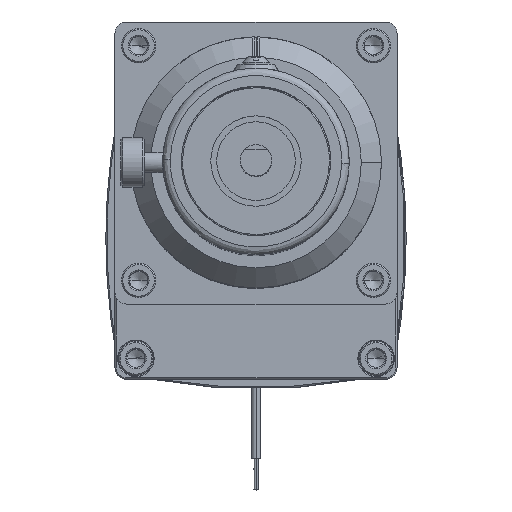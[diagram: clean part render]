
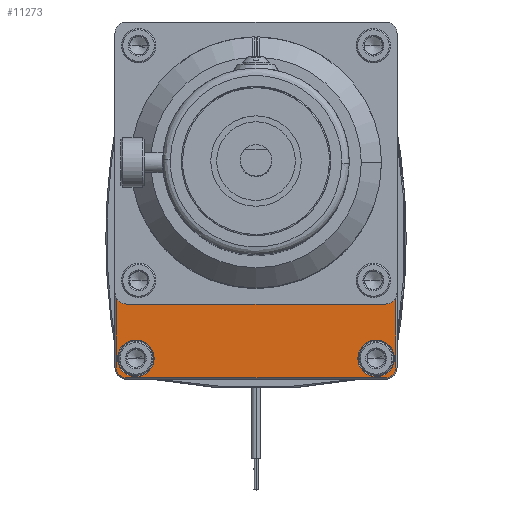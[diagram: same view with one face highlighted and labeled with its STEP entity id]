
A CAD part, top view. The second image highlights one B-rep face of the part: STEP entity #11273.
In plain terms, the highlighted planar face has unit normal (0, 0, 1).
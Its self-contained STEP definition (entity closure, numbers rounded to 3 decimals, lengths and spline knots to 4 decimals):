
#2308 = VERTEX_POINT ( 'NONE', #59616 ) ;
#2312 = VERTEX_POINT ( 'NONE', #59612 ) ;
#4531 = LINE ( 'NONE', #51686, #4542 ) ;
#4536 = LINE ( 'NONE', #51685, #4546 ) ;
#4542 = VECTOR ( 'NONE', #51691, 100. ) ;
#4546 = VECTOR ( 'NONE', #51692, 100. ) ;
#4568 = CIRCLE ( 'NONE', #57250, 0.3683 ) ;
#4575 = CIRCLE ( 'NONE', #57248, 0.3683 ) ;
#4579 = CIRCLE ( 'NONE', #57252, 0.2134 ) ;
#4581 = CIRCLE ( 'NONE', #57255, 0.2134 ) ;
#4585 = LINE ( 'NONE', #75797, #4592 ) ;
#4592 = VECTOR ( 'NONE', #75800, 100. ) ;
#9126 = EDGE_CURVE ( 'NONE', #21313, #21330, #4531, .T. ) ;
#9128 = EDGE_CURVE ( 'NONE', #21320, #21321, #4536, .T. ) ;
#9145 = EDGE_CURVE ( 'NONE', #28136, #28138, #4575, .T. ) ;
#9147 = EDGE_CURVE ( 'NONE', #28129, #28131, #4568, .T. ) ;
#9148 = EDGE_CURVE ( 'NONE', #21326, #21320, #4579, .T. ) ;
#9153 = EDGE_CURVE ( 'NONE', #21323, #21326, #4585, .T. ) ;
#9157 = EDGE_CURVE ( 'NONE', #21330, #21323, #4581, .T. ) ;
#11273 = ADVANCED_FACE ( 'NONE', ( #54540, #54552, #54542 ), #23118, .T. ) ;
#14322 = ORIENTED_EDGE ( 'NONE', *, *, #40113, .T. ) ;
#14325 = ORIENTED_EDGE ( 'NONE', *, *, #9145, .T. ) ;
#14328 = ORIENTED_EDGE ( 'NONE', *, *, #40108, .T. ) ;
#14332 = ORIENTED_EDGE ( 'NONE', *, *, #9147, .T. ) ;
#14335 = ORIENTED_EDGE ( 'NONE', *, *, #9128, .T. ) ;
#14338 = ORIENTED_EDGE ( 'NONE', *, *, #40504, .F. ) ;
#14342 = ORIENTED_EDGE ( 'NONE', *, *, #40503, .F. ) ;
#14345 = ORIENTED_EDGE ( 'NONE', *, *, #40502, .F. ) ;
#14348 = ORIENTED_EDGE ( 'NONE', *, *, #9126, .T. ) ;
#14352 = ORIENTED_EDGE ( 'NONE', *, *, #9157, .T. ) ;
#14355 = ORIENTED_EDGE ( 'NONE', *, *, #9153, .T. ) ;
#14357 = ORIENTED_EDGE ( 'NONE', *, *, #9148, .T. ) ;
#20525 = CARTESIAN_POINT ( 'NONE',  ( 2.413, -3.9218, -23.1699 ) ) ;
#20526 = DIRECTION ( 'NONE',  ( 0., 0., -1. ) ) ;
#20527 = DIRECTION ( 'NONE',  ( 1., 0., 0. ) ) ;
#20539 = CARTESIAN_POINT ( 'NONE',  ( -2.413, -3.9218, -23.1699 ) ) ;
#20540 = DIRECTION ( 'NONE',  ( 0., 0., -1. ) ) ;
#20541 = DIRECTION ( 'NONE',  ( 1., 0., 0. ) ) ;
#21313 = VERTEX_POINT ( 'NONE', #43923 ) ;
#21320 = VERTEX_POINT ( 'NONE', #43930 ) ;
#21321 = VERTEX_POINT ( 'NONE', #43931 ) ;
#21323 = VERTEX_POINT ( 'NONE', #43933 ) ;
#21326 = VERTEX_POINT ( 'NONE', #43936 ) ;
#21330 = VERTEX_POINT ( 'NONE', #43940 ) ;
#23109 = DIRECTION ( 'NONE',  ( 0., 0., 1. ) ) ;
#23113 = CARTESIAN_POINT ( 'NONE',  ( 0., -0.7544, -23.1699 ) ) ;
#23118 = PLANE ( 'NONE',  #53117 ) ;
#23122 = DIRECTION ( 'NONE',  ( 0., -1., 0. ) ) ;
#28129 = VERTEX_POINT ( 'NONE', #44715 ) ;
#28131 = VERTEX_POINT ( 'NONE', #44716 ) ;
#28136 = VERTEX_POINT ( 'NONE', #44720 ) ;
#28138 = VERTEX_POINT ( 'NONE', #44721 ) ;
#35844 = EDGE_LOOP ( 'NONE', ( #14328, #14332 ) ) ;
#35856 = EDGE_LOOP ( 'NONE', ( #14322, #14325 ) ) ;
#35861 = EDGE_LOOP ( 'NONE', ( #14335, #14338, #14342, #14345, #14348, #14352, #14355, #14357 ) ) ;
#40108 = EDGE_CURVE ( 'NONE', #28131, #28129, #48388, .T. ) ;
#40113 = EDGE_CURVE ( 'NONE', #28138, #28136, #48395, .T. ) ;
#40502 = EDGE_CURVE ( 'NONE', #21313, #2308, #48700, .T. ) ;
#40503 = EDGE_CURVE ( 'NONE', #2308, #2312, #48703, .T. ) ;
#40504 = EDGE_CURVE ( 'NONE', #2312, #21321, #48702, .T. ) ;
#43923 = CARTESIAN_POINT ( 'NONE',  ( -2.8067, -2.7011, -23.1699 ) ) ;
#43930 = CARTESIAN_POINT ( 'NONE',  ( 2.8067, -4.1021, -23.1699 ) ) ;
#43931 = CARTESIAN_POINT ( 'NONE',  ( 2.8067, -2.7011, -23.1699 ) ) ;
#43933 = CARTESIAN_POINT ( 'NONE',  ( -2.5933, -4.3155, -23.1699 ) ) ;
#43936 = CARTESIAN_POINT ( 'NONE',  ( 2.5933, -4.3155, -23.1699 ) ) ;
#43940 = CARTESIAN_POINT ( 'NONE',  ( -2.8067, -4.1021, -23.1699 ) ) ;
#44715 = CARTESIAN_POINT ( 'NONE',  ( 2.0447, -3.9218, -23.1699 ) ) ;
#44716 = CARTESIAN_POINT ( 'NONE',  ( 2.7813, -3.9218, -23.1699 ) ) ;
#44720 = CARTESIAN_POINT ( 'NONE',  ( -2.7813, -3.9218, -23.1699 ) ) ;
#44721 = CARTESIAN_POINT ( 'NONE',  ( -2.0447, -3.9218, -23.1699 ) ) ;
#48388 = CIRCLE ( 'NONE', #66026, 0.3683 ) ;
#48395 = CIRCLE ( 'NONE', #66032, 0.3683 ) ;
#48700 = CIRCLE ( 'NONE', #66274, 0.238 ) ;
#48702 = CIRCLE ( 'NONE', #66277, 0.238 ) ;
#48703 = LINE ( 'NONE', #80657, #48705 ) ;
#48705 = VECTOR ( 'NONE', #80658, 100. ) ;
#51685 = CARTESIAN_POINT ( 'NONE',  ( 2.8067, -0.7544, -23.1699 ) ) ;
#51686 = CARTESIAN_POINT ( 'NONE',  ( -2.8067, -0.7544, -23.1699 ) ) ;
#51691 = DIRECTION ( 'NONE',  ( 0., -1., 0. ) ) ;
#51692 = DIRECTION ( 'NONE',  ( 0., 1., 0. ) ) ;
#53117 = AXIS2_PLACEMENT_3D ( 'NONE', #23113, #23109, #23122 ) ;
#54540 = FACE_BOUND ( 'NONE', #35856, .T. ) ;
#54542 = FACE_OUTER_BOUND ( 'NONE', #35861, .T. ) ;
#54552 = FACE_BOUND ( 'NONE', #35844, .T. ) ;
#57248 = AXIS2_PLACEMENT_3D ( 'NONE', #75774, #75776, #75778 ) ;
#57250 = AXIS2_PLACEMENT_3D ( 'NONE', #75782, #75784, #75786 ) ;
#57252 = AXIS2_PLACEMENT_3D ( 'NONE', #75791, #75793, #75794 ) ;
#57255 = AXIS2_PLACEMENT_3D ( 'NONE', #75812, #75814, #75815 ) ;
#59612 = CARTESIAN_POINT ( 'NONE',  ( 2.5941, -2.8321, -23.1699 ) ) ;
#59616 = CARTESIAN_POINT ( 'NONE',  ( -2.5941, -2.8321, -23.1699 ) ) ;
#66026 = AXIS2_PLACEMENT_3D ( 'NONE', #20525, #20526, #20527 ) ;
#66032 = AXIS2_PLACEMENT_3D ( 'NONE', #20539, #20540, #20541 ) ;
#66274 = AXIS2_PLACEMENT_3D ( 'NONE', #80662, #80663, #80664 ) ;
#66277 = AXIS2_PLACEMENT_3D ( 'NONE', #80667, #80668, #80669 ) ;
#75774 = CARTESIAN_POINT ( 'NONE',  ( -2.413, -3.9218, -23.1699 ) ) ;
#75776 = DIRECTION ( 'NONE',  ( 0., 0., -1. ) ) ;
#75778 = DIRECTION ( 'NONE',  ( 1., 0., 0. ) ) ;
#75782 = CARTESIAN_POINT ( 'NONE',  ( 2.413, -3.9218, -23.1699 ) ) ;
#75784 = DIRECTION ( 'NONE',  ( 0., 0., -1. ) ) ;
#75786 = DIRECTION ( 'NONE',  ( 1., 0., 0. ) ) ;
#75791 = CARTESIAN_POINT ( 'NONE',  ( 2.5933, -4.1021, -23.1699 ) ) ;
#75793 = DIRECTION ( 'NONE',  ( 0., 0., 1. ) ) ;
#75794 = DIRECTION ( 'NONE',  ( -1., 0., 0. ) ) ;
#75797 = CARTESIAN_POINT ( 'NONE',  ( 0., -4.3155, -23.1699 ) ) ;
#75800 = DIRECTION ( 'NONE',  ( 1., 0., 0. ) ) ;
#75812 = CARTESIAN_POINT ( 'NONE',  ( -2.5933, -4.1021, -23.1699 ) ) ;
#75814 = DIRECTION ( 'NONE',  ( 0., 0., 1. ) ) ;
#75815 = DIRECTION ( 'NONE',  ( -1., 0., 0. ) ) ;
#80657 = CARTESIAN_POINT ( 'NONE',  ( 0., -2.8321, -23.1699 ) ) ;
#80658 = DIRECTION ( 'NONE',  ( 1., 0., 0. ) ) ;
#80662 = CARTESIAN_POINT ( 'NONE',  ( -2.5941, -2.5941, -23.1699 ) ) ;
#80663 = DIRECTION ( 'NONE',  ( 0., 0., 1. ) ) ;
#80664 = DIRECTION ( 'NONE',  ( -1., 0., 0. ) ) ;
#80667 = CARTESIAN_POINT ( 'NONE',  ( 2.5941, -2.5941, -23.1699 ) ) ;
#80668 = DIRECTION ( 'NONE',  ( 0., 0., 1. ) ) ;
#80669 = DIRECTION ( 'NONE',  ( -1., 0., 0. ) ) ;
